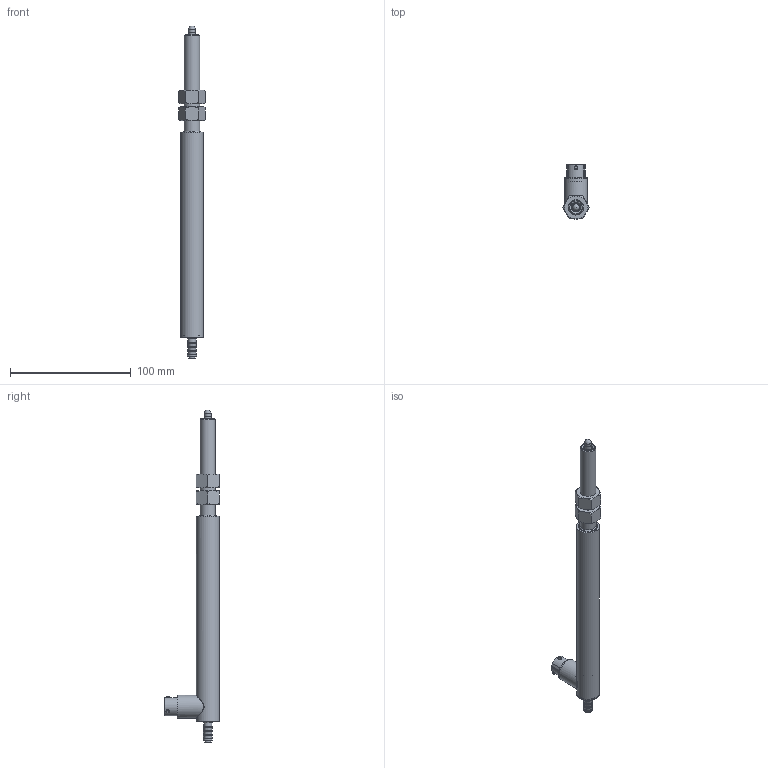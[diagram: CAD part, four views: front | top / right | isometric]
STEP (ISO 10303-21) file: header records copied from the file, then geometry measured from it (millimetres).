
FILE_DESCRIPTION(/* description */ (''),/* implementation_level */ '2;1');
FILE_NAME(/* name */ 'GHRA-750-I-1000 ASS''Y.step',/* time_stamp */ '2023-09-01T12:43:11-04:00',/* author */ ('J. Nielson'),/* organization */ (''),/* preprocessor_version */ 'ST-DEVELOPER v19.2',/* originating_system */ 'Autodesk Inventor 2024',/* authorisation */ '');
FILE_SCHEMA (('AUTOMOTIVE_DESIGN { 1 0 10303 214 3 1 1 }'));
Length unit declared in the file: inch
Products named in the file (4): GHRA-750-E-1000; GHR-750-D-125 HOUSING ASSEMBLY_Shrinkwrap_1; AS 2465 - 1/2  UNF; GHR-750-E-125 SHAFT ASSEMBLY_SW
Assembly tree (4 placements, depth 2):
  GHRA-750-E-1000
    GHR-750-D-125 HOUSING ASSEMBLY_Shrinkwrap_1
    AS 2465 - 1/2  UNF  x2
    GHR-750-E-125 SHAFT ASSEMBLY_SW
Bounding box: 22 x 45.24 x 275.21 mm (x, y, z)
Volume: 32725.9 mm3; surface area: 36412 mm2
Topology: 17 solids, 17 shells, 229 faces, 461 edges, 298 vertices
Faces by surface type: plane 92, cylinder 76, cone 47, bspline 8, torus 5, sphere 1
Full cylindrical faces by diameter (mm): 0.762 x12, 2.032 x3, 2.845 x3, 3.048 x3, 4.762 x1, 4.826 x2, 5.334 x4, 5.397 x1, 6 x1, 6.731 x1, 7.493 x4, 7.671 x3, 7.874 x2, 11.328 x2, 12.7 x1, 13.208 x1, 14.986 x1, 15.748 x2, 16.51 x1, 17.018 x1, 17.069 x1, 17.78 x1, 18.034 x1, 18.415 x6, 19.05 x2
Entity records: 7735 total; most frequent: CARTESIAN_POINT 2946, DIRECTION 974, ORIENTED_EDGE 818, AXIS2_PLACEMENT_3D 417, EDGE_CURVE 409, VERTEX_POINT 269, EDGE_LOOP 266, CIRCLE 207
